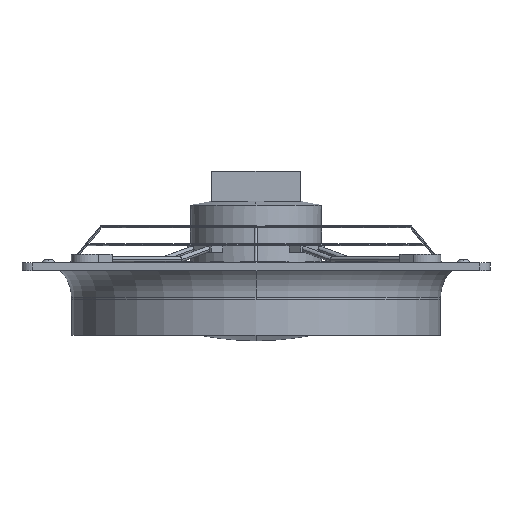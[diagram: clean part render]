
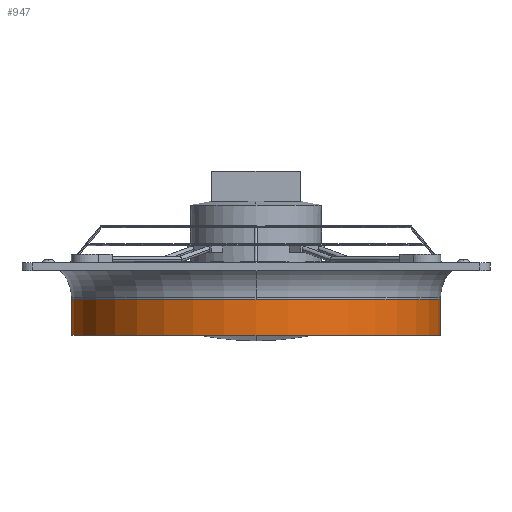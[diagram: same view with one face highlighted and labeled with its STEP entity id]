
A CAD part, left-side view. The second image highlights one B-rep face of the part: STEP entity #947.
In plain terms, the highlighted cylindrical face has radius 280 mm (diameter 560 mm), a partial arc.
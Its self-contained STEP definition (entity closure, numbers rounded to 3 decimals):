
#947=ADVANCED_FACE('',(#1959),#1960,.T.);
#1959=FACE_OUTER_BOUND('',#2978,.T.);
#1960=CYLINDRICAL_SURFACE('',#2979,280.0);
#2978=EDGE_LOOP('',(#5996,#5997,#5998,#5999,#6000));
#2979=AXIS2_PLACEMENT_3D('',#6001,#6002,#6003);
#5996=ORIENTED_EDGE('',*,*,#6342,.T.);
#5997=ORIENTED_EDGE('',*,*,#7298,.F.);
#5998=ORIENTED_EDGE('',*,*,#6343,.T.);
#5999=ORIENTED_EDGE('',*,*,#6339,.T.);
#6000=ORIENTED_EDGE('',*,*,#6103,.T.);
#6001=CARTESIAN_POINT('',(0.,0.0,-70.875));
#6002=DIRECTION('',(0.,0.0,-1.0));
#6003=DIRECTION('',(0.0,1.0,0.0));
#6103=EDGE_CURVE('',#7333,#7331,#7334,.T.);
#6339=EDGE_CURVE('',#7746,#7333,#7747,.T.);
#6342=EDGE_CURVE('',#7331,#7750,#7751,.T.);
#6343=EDGE_CURVE('',#7752,#7746,#7753,.T.);
#7298=EDGE_CURVE('',#7752,#7750,#9077,.T.);
#7331=VERTEX_POINT('',#9118);
#7333=VERTEX_POINT('',#9120);
#7334=CIRCLE('',#9121,280.0);
#7746=VERTEX_POINT('',#12837);
#7747=CIRCLE('',#12838,280.0);
#7750=VERTEX_POINT('',#12841);
#7751=LINE('',#12842,#12843);
#7752=VERTEX_POINT('',#12844);
#7753=LINE('',#12845,#12846);
#9077=CIRCLE('',#18661,280.0);
#9118=CARTESIAN_POINT('',(0.,280.0,-43.25));
#9120=CARTESIAN_POINT('',(-280.0,0.,-43.25));
#9121=AXIS2_PLACEMENT_3D('',#18717,#18718,#18719);
#12837=CARTESIAN_POINT('',(0.,-280.0,-43.25));
#12838=AXIS2_PLACEMENT_3D('',#18918,#18919,#18920);
#12841=CARTESIAN_POINT('',(0.,280.0,-98.5));
#12842=CARTESIAN_POINT('',(0.,280.0,-70.875));
#12843=VECTOR('',#18924,1.0);
#12844=CARTESIAN_POINT('',(0.,-280.0,-98.5));
#12845=CARTESIAN_POINT('',(0.,-280.0,-70.875));
#12846=VECTOR('',#18925,1.0);
#18661=AXIS2_PLACEMENT_3D('',#19920,#19921,#19922);
#18717=CARTESIAN_POINT('',(0.,0.0,-43.25));
#18718=DIRECTION('',(0.,0.0,-1.0));
#18719=DIRECTION('',(0.0,1.0,0.0));
#18918=CARTESIAN_POINT('',(0.,0.0,-43.25));
#18919=DIRECTION('',(0.,0.0,-1.0));
#18920=DIRECTION('',(0.0,1.0,0.0));
#18924=DIRECTION('',(0.,0.0,-1.0));
#18925=DIRECTION('',(0.,-0.0,1.0));
#19920=CARTESIAN_POINT('',(0.,0.0,-98.5));
#19921=DIRECTION('',(0.,0.0,-1.0));
#19922=DIRECTION('',(0.0,1.0,0.0));
